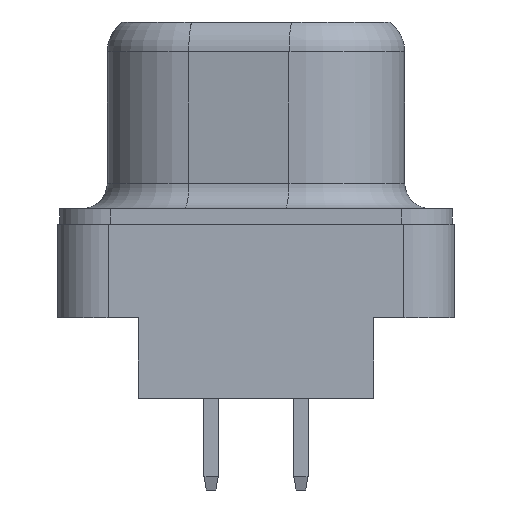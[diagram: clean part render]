
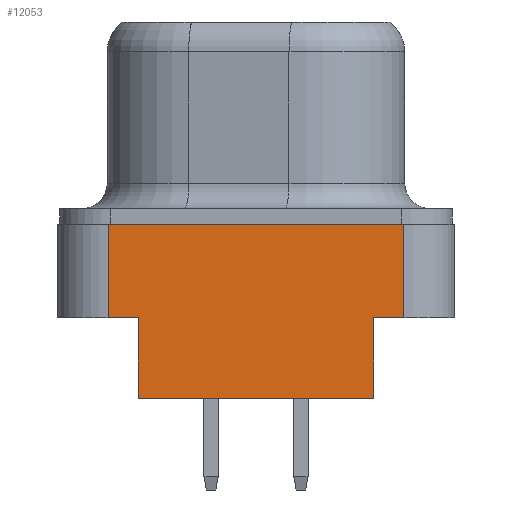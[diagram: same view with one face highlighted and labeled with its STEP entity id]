
A CAD part, left-side view. The second image highlights one B-rep face of the part: STEP entity #12053.
In plain terms, the highlighted planar face has unit normal (-1, 0, 0).
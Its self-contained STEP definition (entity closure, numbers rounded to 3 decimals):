
#755=DIRECTION('',(0.,1.,0.));
#756=VECTOR('',#755,9.35);
#757=CARTESIAN_POINT('',(-15.5,-4.675,-0.5));
#758=LINE('6018',#757,#756);
#1380=DIRECTION('',(0.,1.,0.));
#1381=VECTOR('',#1380,7.45);
#1382=CARTESIAN_POINT('',(-15.5,-3.725,-6.));
#1383=LINE('6459',#1382,#1381);
#1384=DIRECTION('',(0.,0.,1.));
#1385=VECTOR('',#1384,2.55);
#1386=CARTESIAN_POINT('',(-15.5,3.725,-6.));
#1387=LINE('6466',#1386,#1385);
#1388=DIRECTION('',(0.,1.,0.));
#1389=VECTOR('',#1388,0.95);
#1390=CARTESIAN_POINT('',(-15.5,3.725,-3.45));
#1391=LINE('6101',#1390,#1389);
#1392=DIRECTION('',(0.,0.,-1.));
#1393=VECTOR('',#1392,2.95);
#1394=CARTESIAN_POINT('',(-15.5,-4.675,-0.5));
#1395=LINE('6044',#1394,#1393);
#1396=DIRECTION('',(0.,1.,0.));
#1397=VECTOR('',#1396,0.95);
#1398=CARTESIAN_POINT('',(-15.5,-4.675,-3.45));
#1399=LINE('6100',#1398,#1397);
#1400=DIRECTION('',(0.,0.,1.));
#1401=VECTOR('',#1400,2.55);
#1402=CARTESIAN_POINT('',(-15.5,-3.725,-6.));
#1403=LINE('6467',#1402,#1401);
#1638=DIRECTION('',(0.,0.,-1.));
#1639=VECTOR('',#1638,2.95);
#1640=CARTESIAN_POINT('',(-15.5,4.675,-0.5));
#1641=LINE('6045',#1640,#1639);
#8789=CARTESIAN_POINT('',(-15.5,-4.675,-0.5));
#8791=VERTEX_POINT('',#8789);
#8792=CARTESIAN_POINT('',(-15.5,4.675,-0.5));
#8793=VERTEX_POINT('',#8792);
#8822=CARTESIAN_POINT('',(-15.5,-4.675,-3.45));
#8823=VERTEX_POINT('',#8822);
#8824=CARTESIAN_POINT('',(-15.5,4.675,-3.45));
#8825=VERTEX_POINT('',#8824);
#8849=CARTESIAN_POINT('',(-15.5,3.725,-3.45));
#8851=VERTEX_POINT('',#8849);
#8906=CARTESIAN_POINT('',(-15.5,-3.725,-3.45));
#8907=VERTEX_POINT('',#8906);
#9009=CARTESIAN_POINT('',(-15.5,3.725,-6.));
#9011=VERTEX_POINT('',#9009);
#9017=CARTESIAN_POINT('',(-15.5,-3.725,-6.));
#9019=VERTEX_POINT('',#9017);
#12033=CARTESIAN_POINT('',(-15.5,-4.675,-0.5));
#12034=DIRECTION('',(-1.,0.,0.));
#12035=DIRECTION('',(0.,1.,0.));
#12036=AXIS2_PLACEMENT_3D('',#12033,#12034,#12035);
#12037=PLANE('4003',#12036);
#12038=ORIENTED_EDGE('6459',*,*,#12018,.T.);
#12039=ORIENTED_EDGE('6466',*,*,#11798,.T.);
#12041=ORIENTED_EDGE('6101',*,*,#12040,.T.);
#12043=ORIENTED_EDGE('6045',*,*,#12042,.F.);
#12044=ORIENTED_EDGE('6018',*,*,#11014,.F.);
#12046=ORIENTED_EDGE('6044',*,*,#12045,.T.);
#12048=ORIENTED_EDGE('6100',*,*,#12047,.T.);
#12050=ORIENTED_EDGE('6467',*,*,#12049,.F.);
#12051=EDGE_LOOP('4003',(#12038,#12039,#12041,#12043,#12044,#12046,#12048,
#12050));
#12052=FACE_OUTER_BOUND('4003',#12051,.F.);
#12053=ADVANCED_FACE('4003',(#12052),#12037,.T.);
#11014=EDGE_CURVE('6018',#8791,#8793,#758,.T.);
#11798=EDGE_CURVE('6466',#9011,#8851,#1387,.T.);
#12018=EDGE_CURVE('6459',#9019,#9011,#1383,.T.);
#12040=EDGE_CURVE('6101',#8851,#8825,#1391,.T.);
#12042=EDGE_CURVE('6045',#8793,#8825,#1641,.T.);
#12045=EDGE_CURVE('6044',#8791,#8823,#1395,.T.);
#12047=EDGE_CURVE('6100',#8823,#8907,#1399,.T.);
#12049=EDGE_CURVE('6467',#9019,#8907,#1403,.T.);
